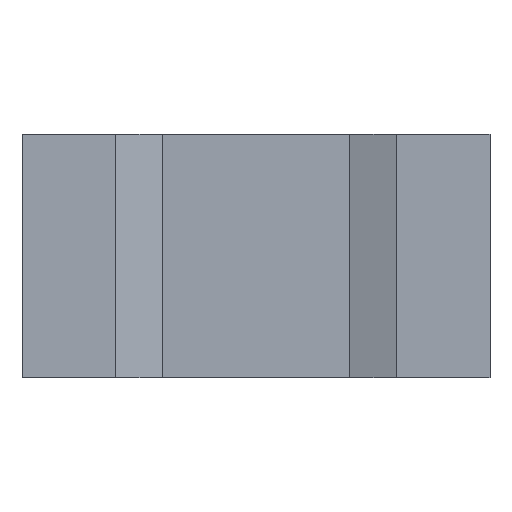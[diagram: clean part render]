
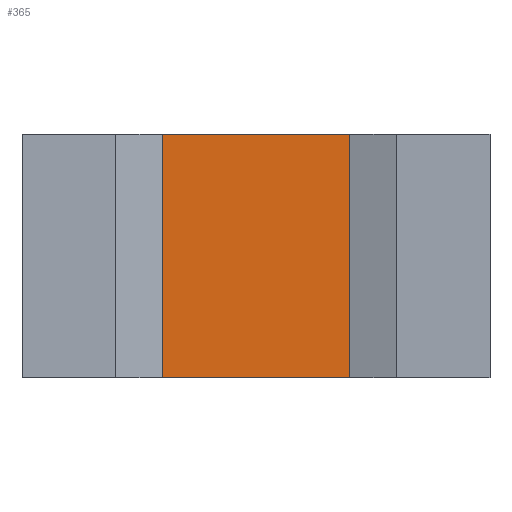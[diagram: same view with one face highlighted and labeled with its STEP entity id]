
A CAD part, front view. The second image highlights one B-rep face of the part: STEP entity #365.
In plain terms, the highlighted planar face has unit normal (0, -1, 0).
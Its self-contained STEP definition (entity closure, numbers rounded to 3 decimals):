
#10 = LINE ( 'NONE', #263, #131 ) ;
#12 = ORIENTED_EDGE ( 'NONE', *, *, #429, .F. ) ;
#29 = VECTOR ( 'NONE', #511, 1000. ) ;
#104 = EDGE_CURVE ( 'NONE', #465, #600, #542, .T. ) ;
#131 = VECTOR ( 'NONE', #267, 1000. ) ;
#160 = LINE ( 'NONE', #662, #29 ) ;
#164 = DIRECTION ( 'NONE',  ( 0., 0., -1. ) ) ;
#172 = EDGE_LOOP ( 'NONE', ( #240, #439, #12, #217 ) ) ;
#174 = CARTESIAN_POINT ( 'NONE',  ( -2., 0.35, -2.6 ) ) ;
#217 = ORIENTED_EDGE ( 'NONE', *, *, #104, .F. ) ;
#227 = DIRECTION ( 'NONE',  ( 0., 0., 1. ) ) ;
#240 = ORIENTED_EDGE ( 'NONE', *, *, #269, .F. ) ;
#252 = CARTESIAN_POINT ( 'NONE',  ( 2., 0.35, 2.6 ) ) ;
#263 = CARTESIAN_POINT ( 'NONE',  ( -2., 0.35, 2.6 ) ) ;
#267 = DIRECTION ( 'NONE',  ( 1., 0., 0. ) ) ;
#269 = EDGE_CURVE ( 'NONE', #532, #465, #160, .T. ) ;
#304 = VERTEX_POINT ( 'NONE', #252 ) ;
#325 = FACE_OUTER_BOUND ( 'NONE', #172, .T. ) ;
#343 = VECTOR ( 'NONE', #227, 1000. ) ;
#365 = ADVANCED_FACE ( 'NONE', ( #325 ), #518, .T. ) ;
#375 = AXIS2_PLACEMENT_3D ( 'NONE', #571, #624, #164 ) ;
#392 = VECTOR ( 'NONE', #446, 1000. ) ;
#429 = EDGE_CURVE ( 'NONE', #600, #304, #10, .T. ) ;
#438 = CARTESIAN_POINT ( 'NONE',  ( 2., 0.35, -6.661 ) ) ;
#439 = ORIENTED_EDGE ( 'NONE', *, *, #485, .T. ) ;
#446 = DIRECTION ( 'NONE',  ( 0., 0., 1. ) ) ;
#451 = CARTESIAN_POINT ( 'NONE',  ( 2., 0.35, -2.6 ) ) ;
#457 = CARTESIAN_POINT ( 'NONE',  ( -2., 0.35, 2.6 ) ) ;
#465 = VERTEX_POINT ( 'NONE', #174 ) ;
#485 = EDGE_CURVE ( 'NONE', #532, #304, #627, .T. ) ;
#511 = DIRECTION ( 'NONE',  ( -1., 0., 0. ) ) ;
#518 = PLANE ( 'NONE',  #375 ) ;
#532 = VERTEX_POINT ( 'NONE', #451 ) ;
#542 = LINE ( 'NONE', #599, #392 ) ;
#571 = CARTESIAN_POINT ( 'NONE',  ( -2., 0.35, -6.661 ) ) ;
#599 = CARTESIAN_POINT ( 'NONE',  ( -2., 0.35, -6.661 ) ) ;
#600 = VERTEX_POINT ( 'NONE', #457 ) ;
#624 = DIRECTION ( 'NONE',  ( 0., -1., 0. ) ) ;
#627 = LINE ( 'NONE', #438, #343 ) ;
#662 = CARTESIAN_POINT ( 'NONE',  ( -2., 0.35, -2.6 ) ) ;
